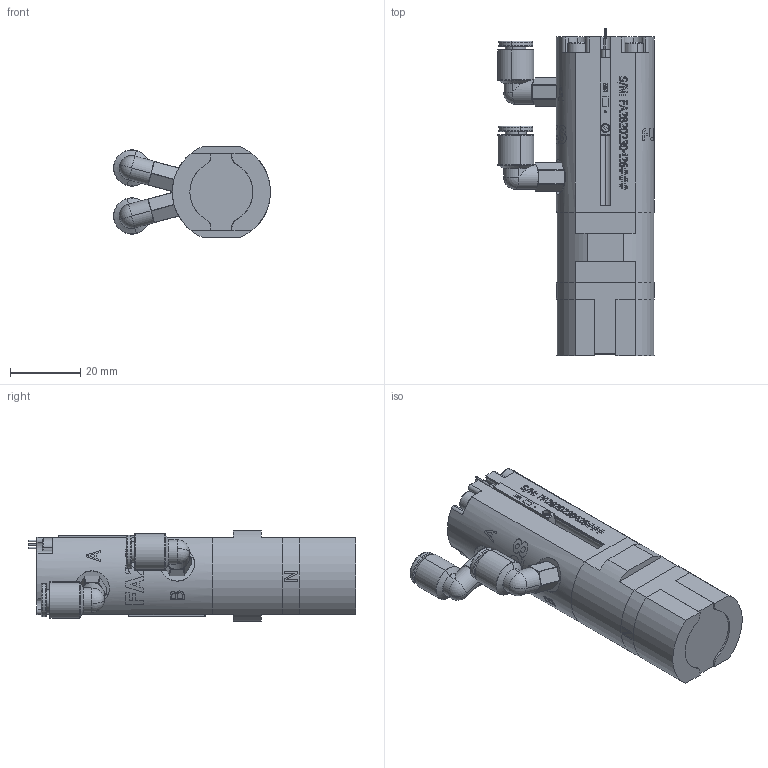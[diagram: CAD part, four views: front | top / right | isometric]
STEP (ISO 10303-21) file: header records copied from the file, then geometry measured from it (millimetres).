
FILE_DESCRIPTION (( 'STEP AP214' ), '1' );
FILE_NAME ('9970114_FA28-S-2.STEP', '2025-01-09T22:09:20', ( '' ), ( '' ), 'SwSTEP 2.0', 'SolidWorks 2021', '' );
FILE_SCHEMA (( 'AUTOMOTIVE_DESIGN' ));
Length unit declared in the file: millimetre
Products named in the file (12): 180027_ M5-6mm_plug-in airport; 110031_FA28 actuator top(FOR SHARE); 9070005 - FA28 (FOR SHARE); 210012_D-M9N magnetic prox switch (NPN)_M9P; 120040_FA28 shunt(FOR SHARE); 160030_2.5X12__SUS304___; 150048_M3X75_SHCS_304(FOR SHARE)_91292A316; 160029_2.5X8__SUS304___; 120039_FA28 std flat pole; 4060031_FA28 std flat pole kit___; 9970114_FA28-S-2; 110030_FA28 base housing(FOR SHARE)
Assembly tree (19 placements, depth 3):
  9970114_FA28-S-2
    9070005 - FA28 (FOR SHARE)
      110031_FA28 actuator top(FOR SHARE)
      110030_FA28 base housing(FOR SHARE)
      120040_FA28 shunt(FOR SHARE)
      150048_M3X75_SHCS_304(FOR SHARE)_91292A316  x4
      160029_2.5X8__SUS304___  x2
      160030_2.5X12__SUS304___  x2
    210012_D-M9N magnetic prox switch (NPN)_M9P  x2
    4060031_FA28 std flat pole kit___
      120039_FA28 std flat pole  x2
    180027_ M5-6mm_plug-in airport  x2
Bounding box: 44.78 x 93.5 x 26 mm (x, y, z)
Volume: 47937.2 mm3; surface area: 24955.9 mm2
Topology: 17 solids, 23 shells, 795 faces, 2301 edges, 1593 vertices
Faces by surface type: cylinder 305, plane 262, cone 134, bspline 34, torus 32, sphere 28
Entity records: 23305 total; most frequent: CARTESIAN_POINT 7520, ORIENTED_EDGE 3072, DIRECTION 2632, EDGE_CURVE 1540, VERTEX_POINT 1170, AXIS2_PLACEMENT_3D 955, LINE 722, VECTOR 722
